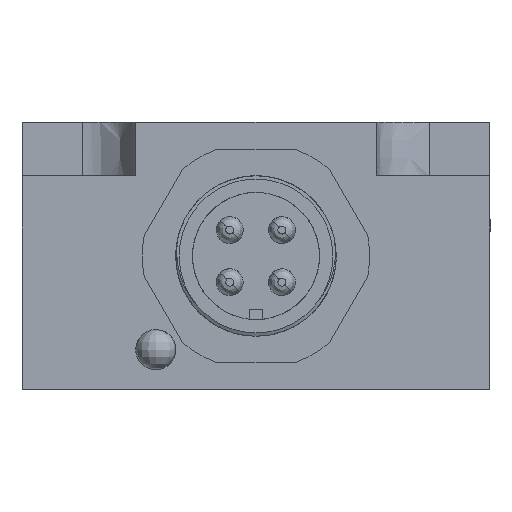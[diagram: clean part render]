
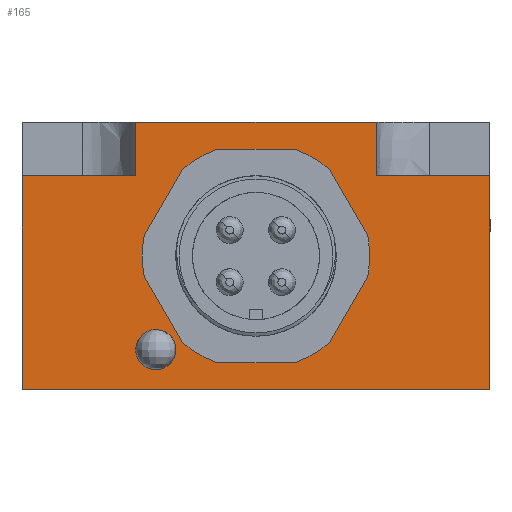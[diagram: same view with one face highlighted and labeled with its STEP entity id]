
A CAD part, front view. The second image highlights one B-rep face of the part: STEP entity #165.
In plain terms, the highlighted free-form (B-spline) face has degree [1, 1] with [2, 2] control points.
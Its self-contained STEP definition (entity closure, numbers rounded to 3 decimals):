
#165=ADVANCED_FACE('',(#480,#439),#3464,.T.);
#439=FACE_BOUND('',#771,.T.);
#480=FACE_OUTER_BOUND('',#770,.T.);
#770=EDGE_LOOP('',(#1151,#1152,#1153,#1154,#1155,#1156,#1157,#1158));
#771=EDGE_LOOP('',(#1159,#1160));
#1151=ORIENTED_EDGE('',*,*,#2347,.T.);
#1152=ORIENTED_EDGE('',*,*,#2331,.F.);
#1153=ORIENTED_EDGE('',*,*,#2328,.F.);
#1154=ORIENTED_EDGE('',*,*,#2327,.T.);
#1155=ORIENTED_EDGE('',*,*,#2332,.T.);
#1156=ORIENTED_EDGE('',*,*,#2300,.T.);
#1157=ORIENTED_EDGE('',*,*,#2349,.F.);
#1158=ORIENTED_EDGE('',*,*,#2346,.F.);
#1159=ORIENTED_EDGE('',*,*,#2355,.T.);
#1160=ORIENTED_EDGE('',*,*,#2400,.T.);
#2300=EDGE_CURVE('',#2917,#2916,#11742,.T.);
#2327=EDGE_CURVE('',#2936,#2937,#11761,.T.);
#2328=EDGE_CURVE('',#2936,#2930,#11762,.T.);
#2331=EDGE_CURVE('',#2930,#2946,#11765,.T.);
#2332=EDGE_CURVE('',#2937,#2917,#11766,.T.);
#2346=EDGE_CURVE('',#2950,#2943,#11779,.T.);
#2347=EDGE_CURVE('',#2950,#2946,#11780,.T.);
#2349=EDGE_CURVE('',#2943,#2916,#11782,.T.);
#2355=EDGE_CURVE('',#2956,#3011,#3646,.T.);
#2400=EDGE_CURVE('',#3011,#2956,#3658,.T.);
#2916=VERTEX_POINT('',#4907);
#2917=VERTEX_POINT('',#4908);
#2930=VERTEX_POINT('',#4921);
#2936=VERTEX_POINT('',#4927);
#2937=VERTEX_POINT('',#4928);
#2943=VERTEX_POINT('',#4934);
#2946=VERTEX_POINT('',#4937);
#2950=VERTEX_POINT('',#4941);
#2956=VERTEX_POINT('',#4947);
#3011=VERTEX_POINT('',#5002);
#3464=B_SPLINE_SURFACE_WITH_KNOTS('',1,1,((#4568,#4569),(#4570,#4571)),.UNSPECIFIED.,
.F.,.F.,.F.,(2,2),(2,2),(0.,20.),(0.,35.),.UNSPECIFIED.);
#3646=(
BOUNDED_CURVE()
B_SPLINE_CURVE(2,(#4184,#4185,#4186,#4187,#4188),.UNSPECIFIED.,.F.,.F.)
B_SPLINE_CURVE_WITH_KNOTS((3,2,3),(-9.425,-7.069,-4.712),
.UNSPECIFIED.)
CURVE()
GEOMETRIC_REPRESENTATION_ITEM()
RATIONAL_B_SPLINE_CURVE((1.,0.707,1.,0.707,1.))
REPRESENTATION_ITEM('')
);
#3658=(
BOUNDED_CURVE()
B_SPLINE_CURVE(2,(#4435,#4436,#4437,#4438,#4439),.UNSPECIFIED.,.F.,.F.)
B_SPLINE_CURVE_WITH_KNOTS((3,2,3),(-4.712,-2.356,0.),
.UNSPECIFIED.)
CURVE()
GEOMETRIC_REPRESENTATION_ITEM()
RATIONAL_B_SPLINE_CURVE((1.,0.707,1.,0.707,1.))
REPRESENTATION_ITEM('')
);
#3859=CARTESIAN_POINT('',(-144.5,-30.,0.));
#3860=CARTESIAN_POINT('',(-109.5,-30.,0.));
#4051=CARTESIAN_POINT('',(-136.,-30.,16.));
#4052=CARTESIAN_POINT('',(-144.5,-30.,16.));
#4053=CARTESIAN_POINT('',(-136.,-30.,16.));
#4054=CARTESIAN_POINT('',(-136.,-30.,20.));
#4059=CARTESIAN_POINT('',(-136.,-30.,20.));
#4060=CARTESIAN_POINT('',(-118.,-30.,20.));
#4061=CARTESIAN_POINT('',(-144.5,-30.,16.));
#4062=CARTESIAN_POINT('',(-144.5,-30.,0.));
#4144=CARTESIAN_POINT('',(-118.,-30.,16.));
#4145=CARTESIAN_POINT('',(-109.5,-30.,16.));
#4146=CARTESIAN_POINT('',(-118.,-30.,16.));
#4147=CARTESIAN_POINT('',(-118.,-30.,20.));
#4150=CARTESIAN_POINT('',(-109.5,-30.,16.));
#4151=CARTESIAN_POINT('',(-109.5,-30.,0.));
#4184=CARTESIAN_POINT('',(-134.5,-30.,1.5));
#4185=CARTESIAN_POINT('',(-136.,-30.,1.5));
#4186=CARTESIAN_POINT('',(-136.,-30.,3.));
#4187=CARTESIAN_POINT('',(-136.,-30.,4.5));
#4188=CARTESIAN_POINT('',(-134.5,-30.,4.5));
#4435=CARTESIAN_POINT('',(-134.5,-30.,4.5));
#4436=CARTESIAN_POINT('',(-133.,-30.,4.5));
#4437=CARTESIAN_POINT('',(-133.,-30.,3.));
#4438=CARTESIAN_POINT('',(-133.,-30.,1.5));
#4439=CARTESIAN_POINT('',(-134.5,-30.,1.5));
#4568=CARTESIAN_POINT('',(-144.5,-30.,20.));
#4569=CARTESIAN_POINT('',(-109.5,-30.,20.));
#4570=CARTESIAN_POINT('',(-144.5,-30.,0.));
#4571=CARTESIAN_POINT('',(-109.5,-30.,0.));
#4907=CARTESIAN_POINT('',(-109.5,-30.,0.));
#4908=CARTESIAN_POINT('',(-144.5,-30.,0.));
#4921=CARTESIAN_POINT('',(-136.,-30.,20.));
#4927=CARTESIAN_POINT('',(-136.,-30.,16.));
#4928=CARTESIAN_POINT('',(-144.5,-30.,16.));
#4934=CARTESIAN_POINT('',(-109.5,-30.,16.));
#4937=CARTESIAN_POINT('',(-118.,-30.,20.));
#4941=CARTESIAN_POINT('',(-118.,-30.,16.));
#4947=CARTESIAN_POINT('',(-134.5,-30.,1.5));
#5002=CARTESIAN_POINT('',(-134.5,-30.,4.5));
#11742=B_SPLINE_CURVE_WITH_KNOTS('',1,(#3859,#3860),.UNSPECIFIED.,.F.,.F.,
(2,2),(0.,35.),.UNSPECIFIED.);
#11761=B_SPLINE_CURVE_WITH_KNOTS('',1,(#4051,#4052),.UNSPECIFIED.,.F.,.F.,
(2,2),(-8.5,0.),.UNSPECIFIED.);
#11762=B_SPLINE_CURVE_WITH_KNOTS('',1,(#4053,#4054),.UNSPECIFIED.,.F.,.F.,
(2,2),(0.,4.),.UNSPECIFIED.);
#11765=B_SPLINE_CURVE_WITH_KNOTS('',1,(#4059,#4060),.UNSPECIFIED.,.F.,.F.,
(2,2),(8.5,26.5),.UNSPECIFIED.);
#11766=B_SPLINE_CURVE_WITH_KNOTS('',1,(#4061,#4062),.UNSPECIFIED.,.F.,.F.,
(2,2),(4.,20.),.UNSPECIFIED.);
#11779=B_SPLINE_CURVE_WITH_KNOTS('',1,(#4144,#4145),.UNSPECIFIED.,.F.,.F.,
(2,2),(-8.5,0.),.UNSPECIFIED.);
#11780=B_SPLINE_CURVE_WITH_KNOTS('',1,(#4146,#4147),.UNSPECIFIED.,.F.,.F.,
(2,2),(0.,4.),.UNSPECIFIED.);
#11782=B_SPLINE_CURVE_WITH_KNOTS('',1,(#4150,#4151),.UNSPECIFIED.,.F.,.F.,
(2,2),(4.,20.),.UNSPECIFIED.);
